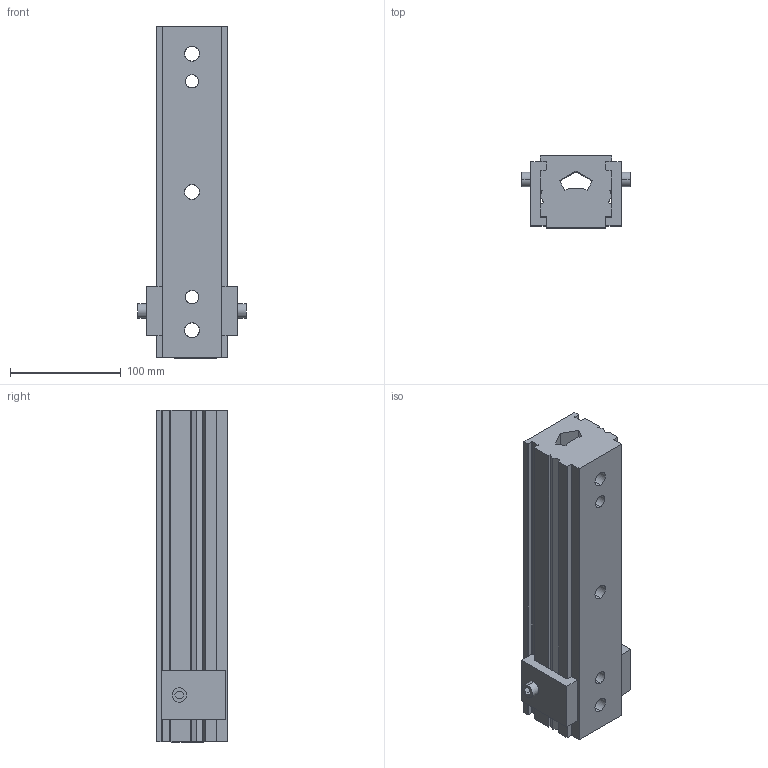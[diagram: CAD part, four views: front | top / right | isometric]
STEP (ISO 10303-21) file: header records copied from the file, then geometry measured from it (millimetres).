
FILE_DESCRIPTION(('CATIA V5 STEP Exchange'),'2;1');
FILE_NAME('C:\Users\Raffaele\Desktop\3D X SITO CF\A945-01\GSB_OILLESS_G24501063001BC\A945-01-630-01-S-BC.stp','2019-07-10T14:18:42+00:00',('none'),('none'),'CATIA Version 5 Release 20 GA (IN-10)','CATIA V5 STEP AP203','none');
FILE_SCHEMA(('CONFIG_CONTROL_DESIGN'));
Length unit declared in the file: millimetre
Products named in the file (1): A945-01-630-01-S-BC
Bounding box: 98 x 65 x 300 mm (x, y, z)
Volume: 1122674.9 mm3; surface area: 131357.2 mm2
Topology: 1 solids, 1 shells, 117 faces, 380 edges, 256 vertices
Faces by surface type: plane 93, cylinder 24
Entity records: 4620 total; most frequent: CARTESIAN_POINT 1234, ORIENTED_EDGE 760, DIRECTION 584, EDGE_CURVE 380, VECTOR 294, LINE 294, VERTEX_POINT 256, AXIS2_PLACEMENT_3D 174
